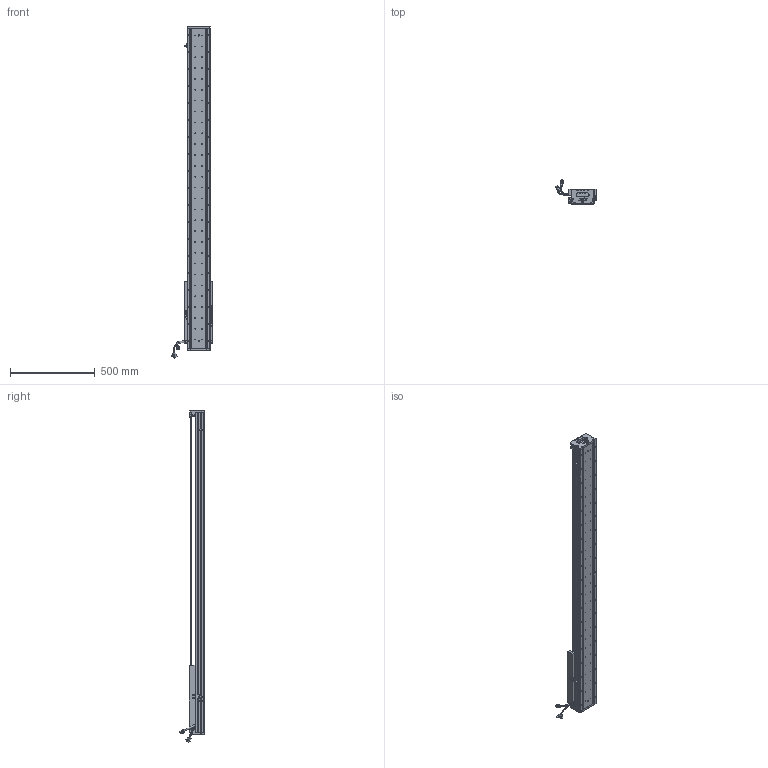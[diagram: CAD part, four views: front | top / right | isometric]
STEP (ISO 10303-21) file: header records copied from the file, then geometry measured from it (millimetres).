
FILE_DESCRIPTION (( 'STEP AP203' ), '1' );
FILE_NAME ('Z5-RY140D-1-L500-B-K.SLDASM_1450.step', '2021-05-17T08:36:49', ( '盈信电脑' ), ( '东莞市道滘镇水果街19号' ), 'SwSTEP 2.0', 'SolidWorks 2016', '' );
FILE_SCHEMA (( 'CONFIG_CONTROL_DESIGN' ));
Length unit declared in the file: millimetre
Products named in the file (36): 140雄赽晤鎢ん堤盄; HARNESS; SCREW-M1.6-3; 080黍杅芛假蚾釱21遴; 140-Z-臏賑輸盄裔(21遴); HOLDER0; SCALE-Part-2; Z-140詩湍傷裔啣; 詩湍奻揤裔; LABEL; SEAL-Part-1; SCREW-M1.6; Z5-RY140圉猾敕臏賑輸(21遴); 覜茼ん672; SEAL; Z5-RY140-L500詩湍100mm遵_1450; LABEL-Part-1; HARNESS-Part-1; SCREW-M1.6-1; PBU_SHEET; SCALE-Part-1; SHIELDPLATE; 140蚥薯蝶輸; SCREW-M1.6-2; SCALE; 榋妏寠巭燃_暯_M2_2; COVER-Part-1; Z-RY140感应器672光电感应片; 詩湍狟揤裔; SCREW-M1.7-1; Z5-RY140D-1-L500-B-K.SLDASM_1450; SCREW-M1.7; HARNESS-Part-2; Z5-RY140-L500直线电机模组底座_1450; PSLH080_PSLF2; COVER
Assembly tree (41 placements, depth 4):
  Z5-RY140D-1-L500-B-K.SLDASM_1450
    Z5-RY140-L500直线电机模组底座_1450
    Z-RY140感应器672光电感应片
    Z5-RY140圉猾敕臏賑輸(21遴)
    覜茼ん672  x3
    Z5-RY140-L500詩湍100mm遵_1450
    PSLH080_PSLF2
      SCALE
        SCALE-Part-1
        SCALE-Part-2
      HARNESS
        HARNESS-Part-1
        HARNESS-Part-2
      LABEL
        LABEL-Part-1
      COVER
        COVER-Part-1
      SEAL
        SEAL-Part-1
      榋妏寠巭燃_暯_M2_2
      SHIELDPLATE
      SCREW-M1.7
      SCREW-M1.7-1
      PBU_SHEET
      SCREW-M1.6
      SCREW-M1.6-1
      SCREW-M1.6-2
      SCREW-M1.6-3
      HOLDER0
    080黍杅芛假蚾釱21遴
    140-Z-臏賑輸盄裔(21遴)
    Z-140詩湍傷裔啣  x2
    詩湍狟揤裔  x2
    詩湍奻揤裔  x2
    140蚥薯蝶輸  x2
    140雄赽晤鎢ん堤盄
Bounding box: 239.84 x 143.88 x 1955.87 mm (x, y, z)
Volume: 6923957.1 mm3; surface area: 1759673.9 mm2
Topology: 36 solids, 36 shells, 3678 faces, 9890 edges, 6267 vertices
Faces by surface type: cylinder 1916, plane 1282, cone 358, torus 69, bspline 53
Entity records: 113626 total; most frequent: CARTESIAN_POINT 30767, ORIENTED_EDGE 16788, DIRECTION 15978, EDGE_CURVE 8394, AXIS2_PLACEMENT_3D 5942, VERTEX_POINT 5435, VECTOR 4094, LINE 4094
